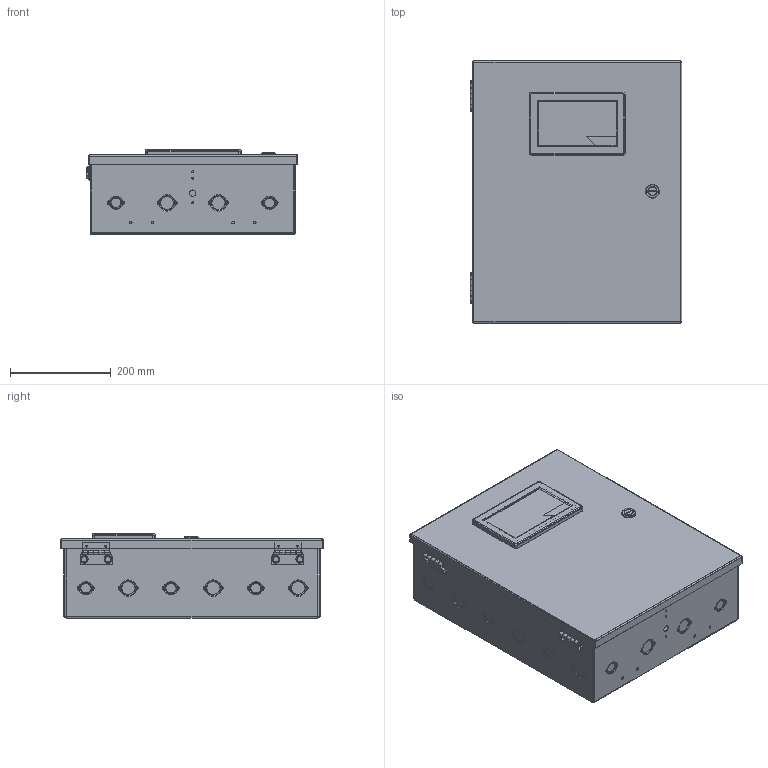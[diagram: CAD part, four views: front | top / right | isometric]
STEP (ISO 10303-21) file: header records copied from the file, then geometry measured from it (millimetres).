
FILE_DESCRIPTION (( 'STEP AP214' ), '1' );
FILE_NAME ('MC5600.STEP', '2020-12-16T15:21:14', ( '' ), ( '' ), 'SwSTEP 2.0', 'SolidWorks 2020', '' );
FILE_SCHEMA (( 'AUTOMOTIVE_DESIGN' ));
Length unit declared in the file: inch
Products named in the file (1): MC5600
Bounding box: 419.95 x 520.69 x 167.89 mm (x, y, z)
Surface area: 1427389.9 mm2 (no closed solid volume)
Topology: 0 solids, 45 shells, 496 faces, 2174 edges, 1646 vertices
Faces by surface type: torus 214, plane 139, cylinder 104, sphere 20, bspline 17, cone 2
Entity records: 31672 total; most frequent: CARTESIAN_POINT 7328, DIRECTION 4287, ORIENTED_EDGE 2844, EDGE_CURVE 2174, AXIS2_PLACEMENT_3D 1815, VERTEX_POINT 1646, CIRCLE 1335, LINE 657
